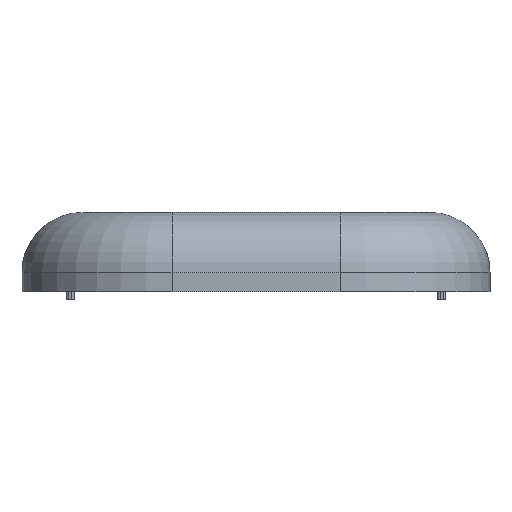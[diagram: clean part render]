
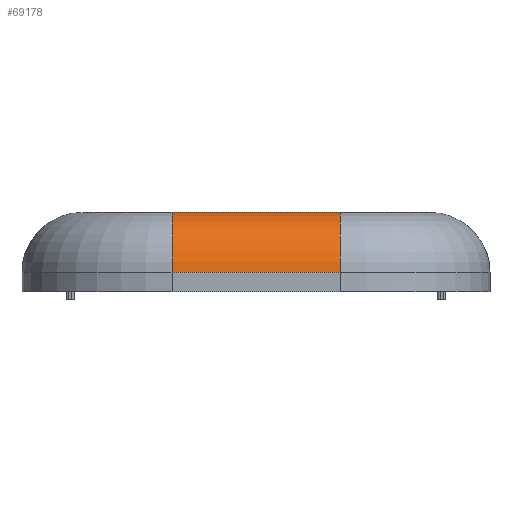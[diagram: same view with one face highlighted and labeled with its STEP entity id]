
A CAD part, front view. The second image highlights one B-rep face of the part: STEP entity #69178.
In plain terms, the highlighted cylindrical face has radius 10 mm (diameter 20 mm), a partial arc.
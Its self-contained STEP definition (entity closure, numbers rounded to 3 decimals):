
#24945 = PLANE('',#24946);
#24946 = AXIS2_PLACEMENT_3D('',#24947,#24948,#24949);
#24947 = CARTESIAN_POINT('',(0.,0.,0.));
#24948 = DIRECTION('',(0.,0.,-1.));
#24949 = DIRECTION('',(-1.,0.,0.));
#50893 = VERTEX_POINT('',#50894);
#50894 = CARTESIAN_POINT('',(14.,-65.,0.));
#50909 = TOROIDAL_SURFACE('',#50910,15.,10.);
#50910 = AXIS2_PLACEMENT_3D('',#50911,#50912,#50913);
#50911 = CARTESIAN_POINT('',(14.,-50.,-10.));
#50912 = DIRECTION('',(0.,0.,-1.));
#50913 = DIRECTION('',(-1.,0.,0.));
#50921 = EDGE_CURVE('',#50893,#50922,#50924,.T.);
#50922 = VERTEX_POINT('',#50923);
#50923 = CARTESIAN_POINT('',(-14.,-65.,0.));
#50924 = SURFACE_CURVE('',#50925,(#50929,#50936),.PCURVE_S1.);
#50925 = LINE('',#50926,#50927);
#50926 = CARTESIAN_POINT('',(7.,-65.,0.));
#50927 = VECTOR('',#50928,1.);
#50928 = DIRECTION('',(-1.,0.,0.));
#50929 = PCURVE('',#24945,#50930);
#50930 = DEFINITIONAL_REPRESENTATION('',(#50931),#50935);
#50931 = LINE('',#50932,#50933);
#50932 = CARTESIAN_POINT('',(-7.,-65.));
#50933 = VECTOR('',#50934,1.);
#50934 = DIRECTION('',(1.,0.));
#50935 = ( GEOMETRIC_REPRESENTATION_CONTEXT(2) 
PARAMETRIC_REPRESENTATION_CONTEXT() REPRESENTATION_CONTEXT('2D SPACE',''
  ) );
#50936 = PCURVE('',#50937,#50942);
#50937 = CYLINDRICAL_SURFACE('',#50938,10.);
#50938 = AXIS2_PLACEMENT_3D('',#50939,#50940,#50941);
#50939 = CARTESIAN_POINT('',(7.,-65.,-10.));
#50940 = DIRECTION('',(-1.,0.,0.));
#50941 = DIRECTION('',(0.,-0.707,0.707));
#50942 = DEFINITIONAL_REPRESENTATION('',(#50943),#50947);
#50943 = LINE('',#50944,#50945);
#50944 = CARTESIAN_POINT('',(7.069,0.));
#50945 = VECTOR('',#50946,1.);
#50946 = DIRECTION('',(0.,1.));
#50947 = ( GEOMETRIC_REPRESENTATION_CONTEXT(2) 
PARAMETRIC_REPRESENTATION_CONTEXT() REPRESENTATION_CONTEXT('2D SPACE',''
  ) );
#50966 = TOROIDAL_SURFACE('',#50967,15.,10.);
#50967 = AXIS2_PLACEMENT_3D('',#50968,#50969,#50970);
#50968 = CARTESIAN_POINT('',(-14.,-50.,-10.));
#50969 = DIRECTION('',(0.,0.,-1.));
#50970 = DIRECTION('',(-1.,0.,0.));
#69126 = EDGE_CURVE('',#50893,#69127,#69129,.T.);
#69127 = VERTEX_POINT('',#69128);
#69128 = CARTESIAN_POINT('',(14.,-75.,-10.));
#69129 = SURFACE_CURVE('',#69130,(#69135,#69142),.PCURVE_S1.);
#69130 = CIRCLE('',#69131,10.);
#69131 = AXIS2_PLACEMENT_3D('',#69132,#69133,#69134);
#69132 = CARTESIAN_POINT('',(14.,-65.,-10.));
#69133 = DIRECTION('',(1.,0.,-0.));
#69134 = DIRECTION('',(0.,0.,1.));
#69135 = PCURVE('',#50909,#69136);
#69136 = DEFINITIONAL_REPRESENTATION('',(#69137),#69141);
#69137 = LINE('',#69138,#69139);
#69138 = CARTESIAN_POINT('',(4.712,4.712));
#69139 = VECTOR('',#69140,1.);
#69140 = DIRECTION('',(0.,1.));
#69141 = ( GEOMETRIC_REPRESENTATION_CONTEXT(2) 
PARAMETRIC_REPRESENTATION_CONTEXT() REPRESENTATION_CONTEXT('2D SPACE',''
  ) );
#69142 = PCURVE('',#50937,#69143);
#69143 = DEFINITIONAL_REPRESENTATION('',(#69144),#69148);
#69144 = LINE('',#69145,#69146);
#69145 = CARTESIAN_POINT('',(7.069,-7.));
#69146 = VECTOR('',#69147,1.);
#69147 = DIRECTION('',(-1.,0.));
#69148 = ( GEOMETRIC_REPRESENTATION_CONTEXT(2) 
PARAMETRIC_REPRESENTATION_CONTEXT() REPRESENTATION_CONTEXT('2D SPACE',''
  ) );
#69178 = ADVANCED_FACE('',(#69179),#50937,.T.);
#69179 = FACE_BOUND('',#69180,.T.);
#69180 = EDGE_LOOP('',(#69181,#69205,#69231,#69232));
#69181 = ORIENTED_EDGE('',*,*,#69182,.T.);
#69182 = EDGE_CURVE('',#50922,#69183,#69185,.T.);
#69183 = VERTEX_POINT('',#69184);
#69184 = CARTESIAN_POINT('',(-14.,-75.,-10.));
#69185 = SURFACE_CURVE('',#69186,(#69191,#69198),.PCURVE_S1.);
#69186 = CIRCLE('',#69187,10.);
#69187 = AXIS2_PLACEMENT_3D('',#69188,#69189,#69190);
#69188 = CARTESIAN_POINT('',(-14.,-65.,-10.));
#69189 = DIRECTION('',(1.,0.,0.));
#69190 = DIRECTION('',(0.,0.,1.));
#69191 = PCURVE('',#50937,#69192);
#69192 = DEFINITIONAL_REPRESENTATION('',(#69193),#69197);
#69193 = LINE('',#69194,#69195);
#69194 = CARTESIAN_POINT('',(7.069,21.));
#69195 = VECTOR('',#69196,1.);
#69196 = DIRECTION('',(-1.,0.));
#69197 = ( GEOMETRIC_REPRESENTATION_CONTEXT(2) 
PARAMETRIC_REPRESENTATION_CONTEXT() REPRESENTATION_CONTEXT('2D SPACE',''
  ) );
#69198 = PCURVE('',#50966,#69199);
#69199 = DEFINITIONAL_REPRESENTATION('',(#69200),#69204);
#69200 = LINE('',#69201,#69202);
#69201 = CARTESIAN_POINT('',(4.712,4.712));
#69202 = VECTOR('',#69203,1.);
#69203 = DIRECTION('',(0.,1.));
#69204 = ( GEOMETRIC_REPRESENTATION_CONTEXT(2) 
PARAMETRIC_REPRESENTATION_CONTEXT() REPRESENTATION_CONTEXT('2D SPACE',''
  ) );
#69205 = ORIENTED_EDGE('',*,*,#69206,.T.);
#69206 = EDGE_CURVE('',#69183,#69127,#69207,.T.);
#69207 = SURFACE_CURVE('',#69208,(#69212,#69219),.PCURVE_S1.);
#69208 = LINE('',#69209,#69210);
#69209 = CARTESIAN_POINT('',(7.,-75.,-10.));
#69210 = VECTOR('',#69211,1.);
#69211 = DIRECTION('',(1.,0.,0.));
#69212 = PCURVE('',#50937,#69213);
#69213 = DEFINITIONAL_REPRESENTATION('',(#69214),#69218);
#69214 = LINE('',#69215,#69216);
#69215 = CARTESIAN_POINT('',(5.498,0.));
#69216 = VECTOR('',#69217,1.);
#69217 = DIRECTION('',(0.,-1.));
#69218 = ( GEOMETRIC_REPRESENTATION_CONTEXT(2) 
PARAMETRIC_REPRESENTATION_CONTEXT() REPRESENTATION_CONTEXT('2D SPACE',''
  ) );
#69219 = PCURVE('',#69220,#69225);
#69220 = PLANE('',#69221);
#69221 = AXIS2_PLACEMENT_3D('',#69222,#69223,#69224);
#69222 = CARTESIAN_POINT('',(14.,-75.,0.));
#69223 = DIRECTION('',(0.,-1.,0.));
#69224 = DIRECTION('',(-1.,0.,0.));
#69225 = DEFINITIONAL_REPRESENTATION('',(#69226),#69230);
#69226 = LINE('',#69227,#69228);
#69227 = CARTESIAN_POINT('',(7.,10.));
#69228 = VECTOR('',#69229,1.);
#69229 = DIRECTION('',(-1.,-0.));
#69230 = ( GEOMETRIC_REPRESENTATION_CONTEXT(2) 
PARAMETRIC_REPRESENTATION_CONTEXT() REPRESENTATION_CONTEXT('2D SPACE',''
  ) );
#69231 = ORIENTED_EDGE('',*,*,#69126,.F.);
#69232 = ORIENTED_EDGE('',*,*,#50921,.T.);
